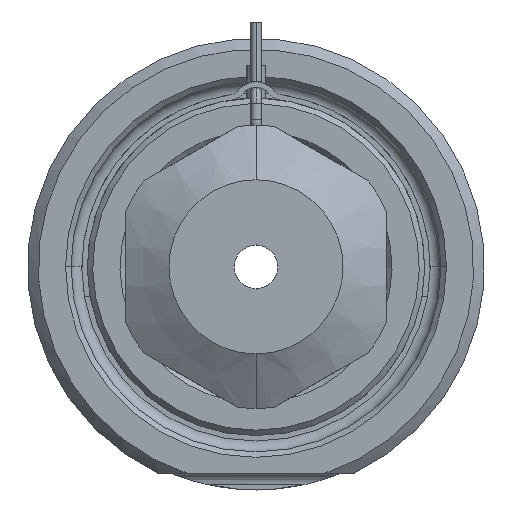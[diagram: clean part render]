
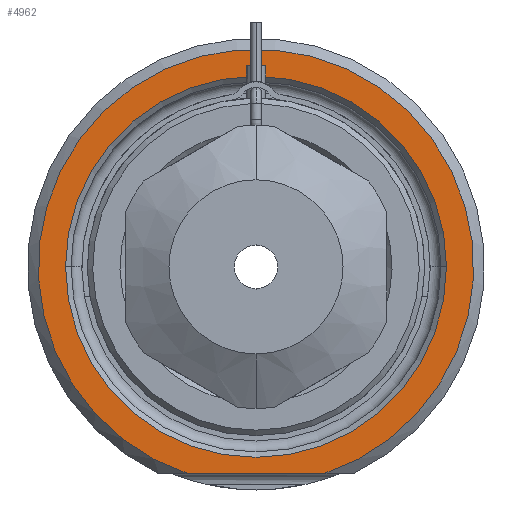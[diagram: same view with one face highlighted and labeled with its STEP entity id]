
A CAD part, front view. The second image highlights one B-rep face of the part: STEP entity #4962.
In plain terms, the highlighted planar face has unit normal (0, -1, 0).
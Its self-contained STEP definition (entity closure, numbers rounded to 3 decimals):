
#1460=DIRECTION('',(1.,0.,0.));
#1461=VECTOR('',#1460,12.49);
#1462=CARTESIAN_POINT('',(-6.245,0.,-19.));
#1463=LINE('',#1462,#1461);
#1464=CARTESIAN_POINT('',(0.,0.,0.));
#1465=DIRECTION('',(0.,1.,0.));
#1466=DIRECTION('',(-1.,0.,0.));
#1467=AXIS2_PLACEMENT_3D('',#1464,#1465,#1466);
#1469=CARTESIAN_POINT('',(0.,0.,0.));
#1470=DIRECTION('',(0.,1.,0.));
#1471=DIRECTION('',(1.,0.,0.));
#1472=AXIS2_PLACEMENT_3D('',#1469,#1470,#1471);
#1578=CARTESIAN_POINT('',(0.,0.,0.));
#1579=DIRECTION('',(0.,-1.,0.));
#1580=DIRECTION('',(0.312,0.,-0.95));
#1581=AXIS2_PLACEMENT_3D('',#1578,#1579,#1580);
#2777=CARTESIAN_POINT('',(-17.5,0.,0.));
#2778=CARTESIAN_POINT('',(17.5,0.,0.));
#2779=VERTEX_POINT('',#2777);
#2780=VERTEX_POINT('',#2778);
#2821=CARTESIAN_POINT('',(-6.245,0.,-19.));
#2822=CARTESIAN_POINT('',(6.245,0.,-19.));
#2823=VERTEX_POINT('',#2821);
#2824=VERTEX_POINT('',#2822);
#4946=CARTESIAN_POINT('',(0.,0.,0.));
#4947=DIRECTION('',(0.,-1.,0.));
#4948=DIRECTION('',(1.,0.,0.));
#4949=AXIS2_PLACEMENT_3D('',#4946,#4947,#4948);
#4950=PLANE('',#4949);
#4952=ORIENTED_EDGE('',*,*,#4951,.F.);
#4954=ORIENTED_EDGE('',*,*,#4953,.F.);
#4955=EDGE_LOOP('',(#4952,#4954));
#4956=FACE_OUTER_BOUND('',#4955,.F.);
#4957=ORIENTED_EDGE('',*,*,#4936,.F.);
#4959=ORIENTED_EDGE('',*,*,#4958,.F.);
#4960=EDGE_LOOP('',(#4957,#4959));
#4961=FACE_BOUND('',#4960,.F.);
#4962=ADVANCED_FACE('',(#4956,#4961),#4950,.T.);
#1468=CIRCLE('',#1467,17.5);
#1473=CIRCLE('',#1472,17.5);
#1582=CIRCLE('',#1581,20.);
#4936=EDGE_CURVE('',#2779,#2780,#1468,.T.);
#4951=EDGE_CURVE('',#2823,#2824,#1463,.T.);
#4953=EDGE_CURVE('',#2824,#2823,#1582,.T.);
#4958=EDGE_CURVE('',#2780,#2779,#1473,.T.);
